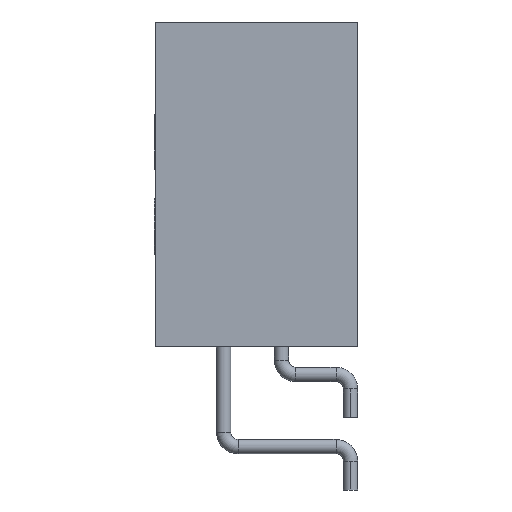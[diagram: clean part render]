
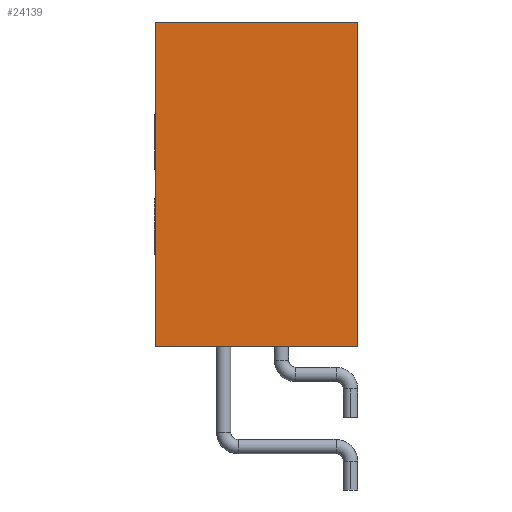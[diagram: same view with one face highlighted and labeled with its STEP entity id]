
A CAD part, left-side view. The second image highlights one B-rep face of the part: STEP entity #24139.
In plain terms, the highlighted planar face has unit normal (-1, 0, 0).
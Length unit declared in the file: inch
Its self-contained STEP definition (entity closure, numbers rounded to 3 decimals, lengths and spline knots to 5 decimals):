
#93 = EDGE_LOOP ( 'NONE', ( #11650, #18262, #253, #22717 ) ) ;
#253 = ORIENTED_EDGE ( 'NONE', *, *, #4428, .T. ) ;
#418 = VERTEX_POINT ( 'NONE', #20264 ) ;
#551 = CARTESIAN_POINT ( 'NONE',  ( -0.1875, 0.0675, -0.225 ) ) ;
#658 = DIRECTION ( 'NONE',  ( 0., -1., 0. ) ) ;
#1647 = CARTESIAN_POINT ( 'NONE',  ( -0.1875, 0.0675, 0. ) ) ;
#2103 = CARTESIAN_POINT ( 'NONE',  ( -0.1875, -0.0725, -0.225 ) ) ;
#2513 = CARTESIAN_POINT ( 'NONE',  ( -0.1875, -0.0725, -0.225 ) ) ;
#2616 = VECTOR ( 'NONE', #658, 39.37008 ) ;
#4285 = CARTESIAN_POINT ( 'NONE',  ( -0.1875, 0.0675, -0.225 ) ) ;
#4428 = EDGE_CURVE ( 'NONE', #16259, #16028, #19738, .T. ) ;
#4877 = LINE ( 'NONE', #2513, #9613 ) ;
#7546 = VECTOR ( 'NONE', #11522, 39.37008 ) ;
#7894 = CARTESIAN_POINT ( 'NONE',  ( -0.1875, 0.0675, -0.225 ) ) ;
#7994 = LINE ( 'NONE', #20969, #2616 ) ;
#9460 = CARTESIAN_POINT ( 'NONE',  ( -0.1875, 0.0675, -0.225 ) ) ;
#9613 = VECTOR ( 'NONE', #18769, 39.37008 ) ;
#11522 = DIRECTION ( 'NONE',  ( 0., 0., 1. ) ) ;
#11598 = EDGE_CURVE ( 'NONE', #22428, #418, #7994, .T. ) ;
#11650 = ORIENTED_EDGE ( 'NONE', *, *, #11598, .F. ) ;
#16028 = VERTEX_POINT ( 'NONE', #2103 ) ;
#16259 = VERTEX_POINT ( 'NONE', #551 ) ;
#16579 = DIRECTION ( 'NONE',  ( 0., -1., 0. ) ) ;
#17512 = EDGE_CURVE ( 'NONE', #16028, #418, #4877, .T. ) ;
#17801 = AXIS2_PLACEMENT_3D ( 'NONE', #4285, #20447, #22591 ) ;
#18262 = ORIENTED_EDGE ( 'NONE', *, *, #22988, .F. ) ;
#18318 = FACE_OUTER_BOUND ( 'NONE', #93, .T. ) ;
#18769 = DIRECTION ( 'NONE',  ( 0., 0., 1. ) ) ;
#19738 = LINE ( 'NONE', #7894, #21672 ) ;
#20264 = CARTESIAN_POINT ( 'NONE',  ( -0.1875, -0.0725, 0. ) ) ;
#20447 = DIRECTION ( 'NONE',  ( -1., 0., 0. ) ) ;
#20536 = PLANE ( 'NONE',  #17801 ) ;
#20969 = CARTESIAN_POINT ( 'NONE',  ( -0.1875, 0.0675, 0. ) ) ;
#21672 = VECTOR ( 'NONE', #16579, 39.37008 ) ;
#22428 = VERTEX_POINT ( 'NONE', #1647 ) ;
#22591 = DIRECTION ( 'NONE',  ( 0., 0., -1. ) ) ;
#22717 = ORIENTED_EDGE ( 'NONE', *, *, #17512, .T. ) ;
#22988 = EDGE_CURVE ( 'NONE', #16259, #22428, #23787, .T. ) ;
#23787 = LINE ( 'NONE', #9460, #7546 ) ;
#24139 = ADVANCED_FACE ( 'NONE', ( #18318 ), #20536, .T. ) ;
